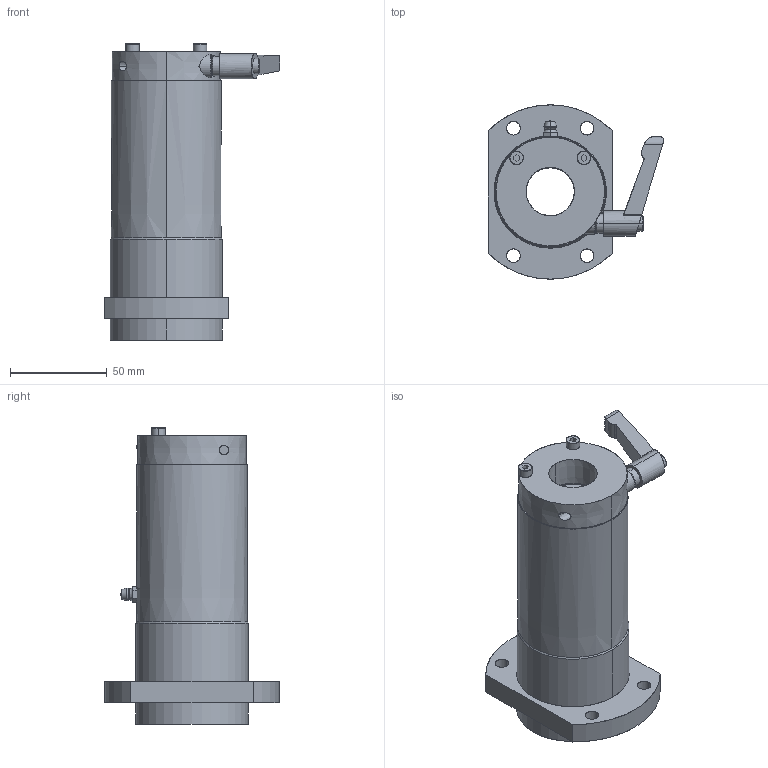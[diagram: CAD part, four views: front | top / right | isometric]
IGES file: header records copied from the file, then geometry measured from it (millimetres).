
Start section: SolidWorks IGES file using analytic representation for surfaces
Global section: file name: C:\Users\yamad\Desktop\IGES\LFWB25-CS.IGS; native system: SolidWorks 2019; preprocessor: SolidWorks 2019; author: yamad; date: 230626.171933; units: millimetre
Bounding box: 90.6 x 90 x 153 mm (x, y, z)
Surface area: 66037.8 mm2 (no closed solid volume)
Topology: 0 solids, 0 shells, 236 faces, 5563 edges, 5561 vertices
Faces by surface type: bspline 125, revolution 111
